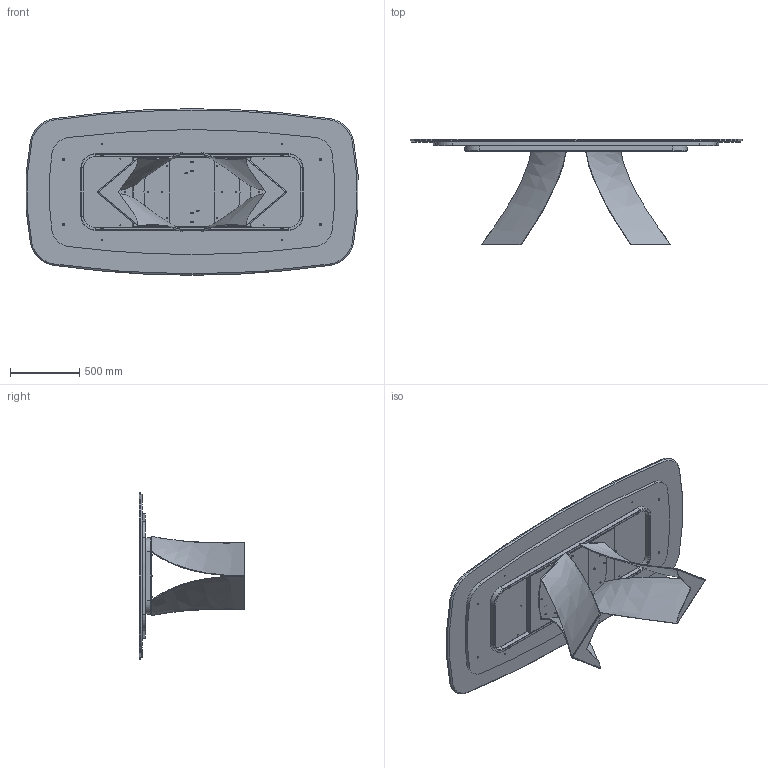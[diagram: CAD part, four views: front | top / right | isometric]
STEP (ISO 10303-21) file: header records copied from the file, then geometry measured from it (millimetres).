
FILE_DESCRIPTION (( 'STEP AP203' ), '1' );
FILE_NAME ('TW43M.STEP', '2024-08-07T12:39:49', ( '' ), ( '' ), 'SwSTEP 2.0', 'SolidWorks 2022', '' );
FILE_SCHEMA (( 'CONFIG_CONTROL_DESIGN' ));
Length unit declared in the file: millimetre
Products named in the file (11): TRUXXXXXX-00-NOBILITATO GR CON SUPP TRUCIOLARE SP. 25_TRU00007_2100x900; TEALIO TEMP PER MANUALE; TWS000000BAS-00-TWIST BASE GREZZA; TW43M; M4XMXX-00-Piani Sagomati in marmo_2400x1200; TUBOLARE TELAIO TEMP TWIST_Default<A macchina>; M8xXXmm_M8x20mm; M8xXXmm_M8x55mm; rondella M8_8X16; M4X-00-Piani Sagomati in marmo_2400 x 1200; TTAV01_02-01-VASSOIO IRRIGIDIMENTO TELAIO UNIVERSALE
Assembly tree (40 placements, depth 3):
  TW43M
    M4XMXX-00-Piani Sagomati in marmo_2400x1200
      M4X-00-Piani Sagomati in marmo_2400 x 1200
      TRUXXXXXX-00-NOBILITATO GR CON SUPP TRUCIOLARE SP. 25_TRU00007_2100x900
    TEALIO TEMP PER MANUALE
      TUBOLARE TELAIO TEMP TWIST_Default<A macchina>
      TTAV01_02-01-VASSOIO IRRIGIDIMENTO TELAIO UNIVERSALE
    TWS000000BAS-00-TWIST BASE GREZZA  x2
    M8xXXmm_M8x55mm  x4
    rondella M8_8X16  x16
    M8xXXmm_M8x20mm  x12
Bounding box: 2391.9 x 760.37 x 1200 mm (x, y, z)
Volume: 106199740.3 mm3; surface area: 13390902.5 mm2
Topology: 53 solids, 53 shells, 1337 faces, 3141 edges, 1875 vertices
Faces by surface type: plane 466, cylinder 350, cone 231, torus 224, bspline 66
Entity records: 26443 total; most frequent: CARTESIAN_POINT 9595, DIRECTION 3211, ORIENTED_EDGE 3008, EDGE_CURVE 1504, AXIS2_PLACEMENT_3D 1219, VERTEX_POINT 964, LINE 773, VECTOR 773
